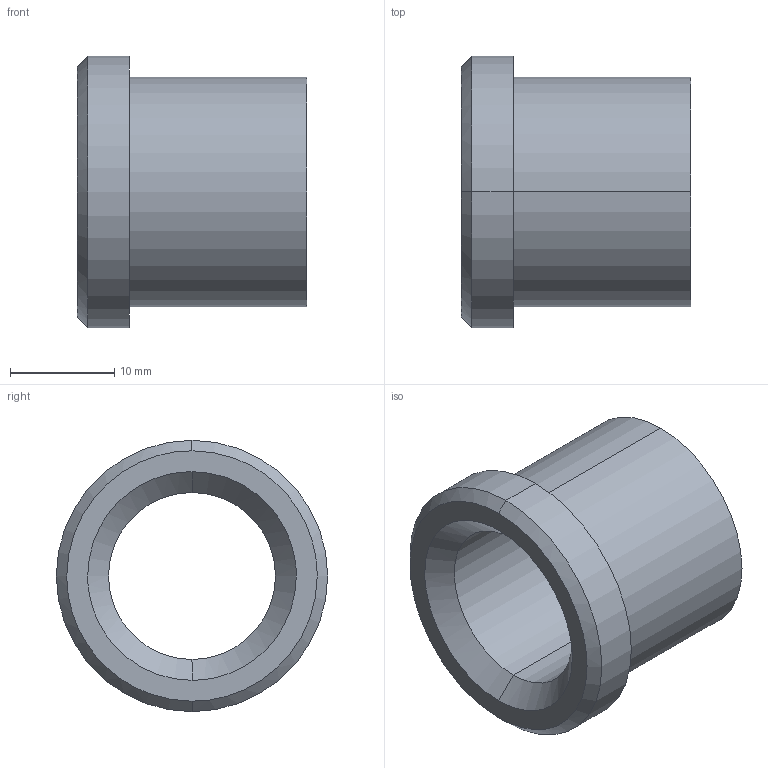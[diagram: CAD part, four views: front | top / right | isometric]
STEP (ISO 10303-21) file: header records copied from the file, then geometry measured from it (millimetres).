
FILE_DESCRIPTION(('CATIA V5 STEP Exchange'),'2;1');
FILE_NAME('C:\Users\Utente\Desktop\IO LAVORO\3D X SITO CF\X SITO\PLASTICA\353\353-16X22.stp','2021-05-04T18:20:10+00:00',('none'),('none'),'CATIA Version 5 Release 20 GA (IN-10)','CATIA V5 STEP AP203','none');
FILE_SCHEMA(('CONFIG_CONTROL_DESIGN'));
Length unit declared in the file: millimetre
Products named in the file (1): 353-16X22
Bounding box: 22 x 26 x 26 mm (x, y, z)
Volume: 4533.7 mm3; surface area: 3225 mm2
Topology: 1 solids, 1 shells, 15 faces, 48 edges, 36 vertices
Faces by surface type: cylinder 6, cone 4, plane 3, torus 2
Entity records: 680 total; most frequent: CARTESIAN_POINT 212, ORIENTED_EDGE 96, DIRECTION 70, EDGE_CURVE 48, AXIS2_PLACEMENT_3D 46, VERTEX_POINT 36, CIRCLE 30, EDGE_LOOP 18
